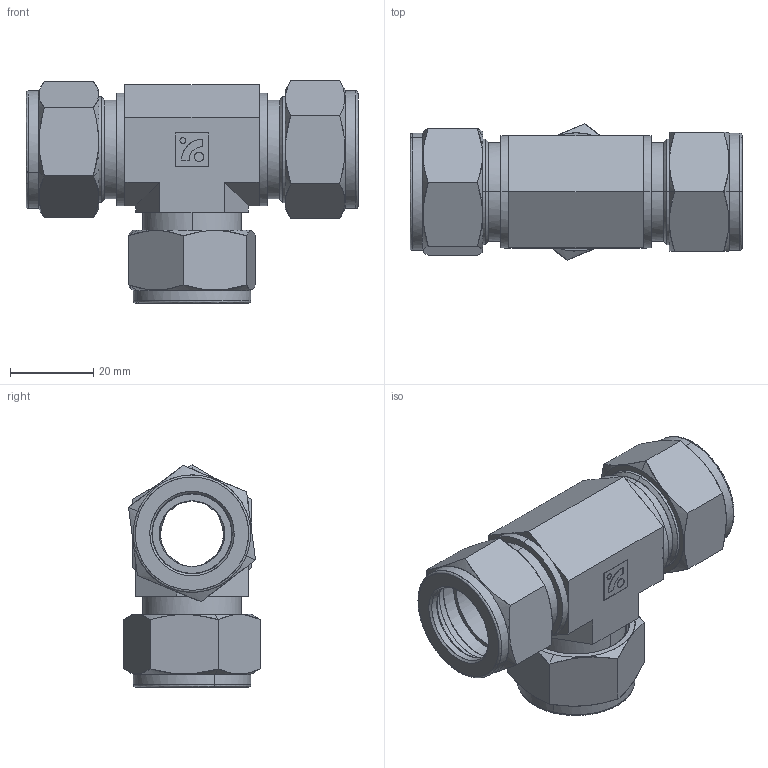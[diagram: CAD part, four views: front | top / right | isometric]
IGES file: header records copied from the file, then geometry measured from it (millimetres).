
Start section: Comment
Global section: file name: SUT-12.igs; native system:  By UGS Corp.; preprocessor: XPlus GENERIC/IGES 3.0; author: Author; organization: Title; date: 20100114.113018; units: millimetre
Bounding box: 79.72 x 32.72 x 53.34 mm (x, y, z)
Surface area: 22887.6 mm2 (no closed solid volume)
Topology: 0 solids, 0 shells, 224 faces, 964 edges, 964 vertices
Faces by surface type: bspline 224
